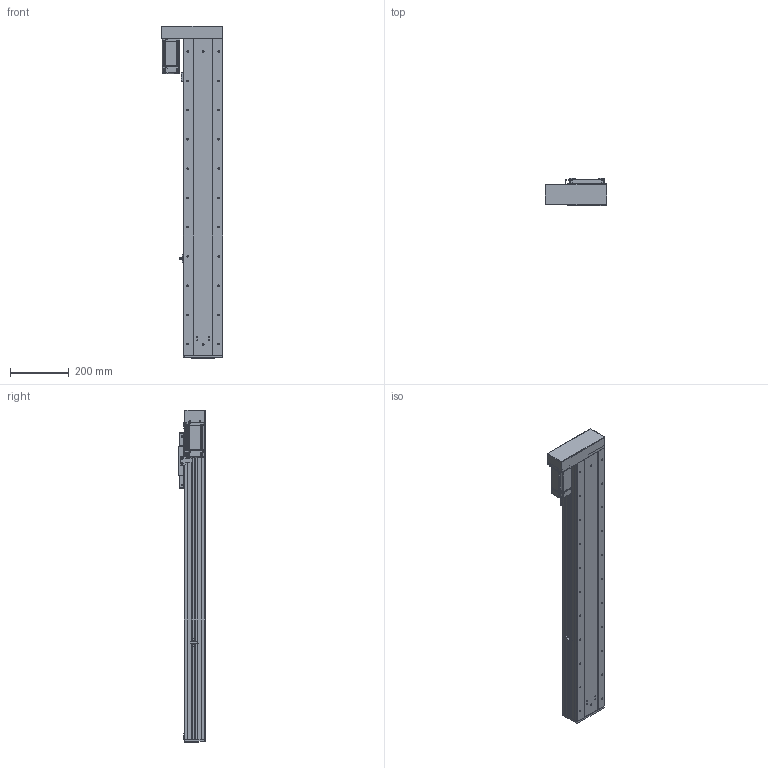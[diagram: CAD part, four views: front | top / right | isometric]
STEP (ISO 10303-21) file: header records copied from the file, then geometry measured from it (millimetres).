
FILE_DESCRIPTION (( 'STEP AP203' ), '1' );
FILE_NAME ('RY140F-L2020-300-LK.SLDASM_800.step', '2021-03-02T08:37:27', ( '盈信电脑' ), ( '东莞市道滘镇水果街19号' ), 'SwSTEP 2.0', 'SolidWorks 2012', '' );
FILE_SCHEMA (( 'CONFIG_CONTROL_DESIGN' ));
Products named in the file (19): RY140F-酘衵殏萇儂欶(400W); RY140F-L2020-300-LK.SLDASM_800; RY140F-左右折电机安装板(400W M5); 侐源滅袉蝶; RY140F-转折折电机座（7001）; RY140F-詩湍揤え; 覜茼ん672; 侂狟400W侜督萇儂; RY140F-672覜茼んえ; RY100F-詩湍揤踡謫; 15; RY140F-后盖板(铝件）; RY140F-直连型材铝滑块(16丝杆); RY140F-詩湍幗謫粣; RY140F-滅鳥奻裔; RY140F-直连型材铝滑块连接座; RY140F-300-LK蛌殏詩湍_800; RY140F-300-LK倰第菁釱_800; RY140F-300-LK倰第奻裔啣_800
Assembly tree (23 placements, depth 3):
  RY140F-L2020-300-LK.SLDASM_800
    RY140F-300-LK倰第菁釱_800
    RY140F-300-LK倰第奻裔啣_800  x2
    RY140F-300-LK蛌殏詩湍_800
    RY140F-直连型材铝滑块连接座
    RY140F-滅鳥奻裔
    RY140F-詩湍幗謫粣
    RY100F-詩湍揤踡謫
    RY140F-直连型材铝滑块(16丝杆)
    RY140F-后盖板(铝件）
    侂狟400W侜督萇儂
      15
    覜茼ん672
    RY140F-672覜茼んえ
    RY140F-詩湍揤え  x2
    侐源滅袉蝶  x4
    RY140F-转折折电机座（7001）
    RY140F-左右折电机安装板(400W M5)
    RY140F-酘衵殏萇儂欶(400W)
Bounding box: 211 x 91 x 1134 mm (x, y, z)
Volume: 4385419.5 mm3; surface area: 1566291.1 mm2
Topology: 22 solids, 22 shells, 2065 faces, 5629 edges, 3564 vertices
Faces by surface type: cylinder 1008, plane 789, cone 238, bspline 26, torus 4
Entity records: 65103 total; most frequent: CARTESIAN_POINT 13725, DIRECTION 10458, ORIENTED_EDGE 10122, EDGE_CURVE 5061, AXIS2_PLACEMENT_3D 3761, VERTEX_POINT 3304, LINE 2936, VECTOR 2936
